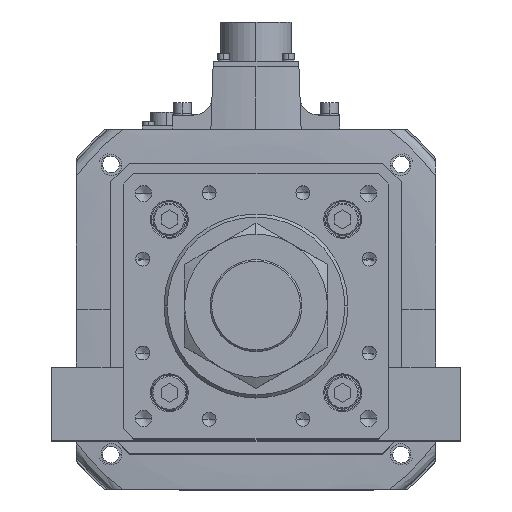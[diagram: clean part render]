
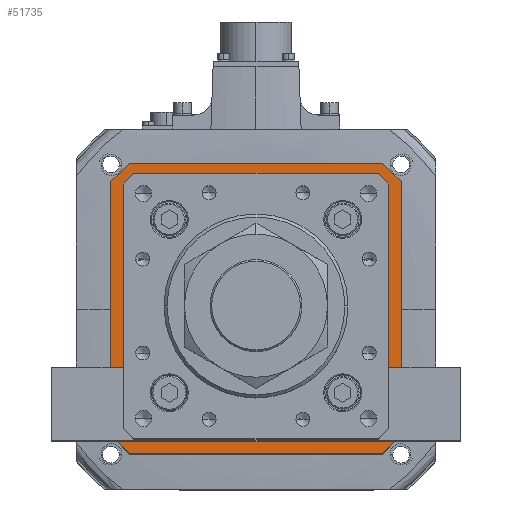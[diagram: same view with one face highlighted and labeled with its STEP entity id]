
A CAD part, top view. The second image highlights one B-rep face of the part: STEP entity #51735.
In plain terms, the highlighted planar face has unit normal (0, 0, 1) as drawn and (0, 0, -1) by its records, which use the part's own axes.
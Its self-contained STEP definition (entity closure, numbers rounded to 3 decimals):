
#1413 = ORIENTED_EDGE ( 'NONE', *, *, #3978, .T. ) ;
#2510 = LINE ( 'NONE', #45470, #39836 ) ;
#3048 = CARTESIAN_POINT ( 'NONE',  ( -62., 71., 60. ) ) ;
#3396 = CARTESIAN_POINT ( 'NONE',  ( 63., 59., 60. ) ) ;
#3423 = ORIENTED_EDGE ( 'NONE', *, *, #32538, .T. ) ;
#3978 = EDGE_CURVE ( 'NONE', #39829, #32027, #51412, .T. ) ;
#4241 = EDGE_CURVE ( 'NONE', #14136, #6837, #12597, .T. ) ;
#4397 = CARTESIAN_POINT ( 'NONE',  ( -63., 58.793, 60. ) ) ;
#5462 = EDGE_CURVE ( 'NONE', #11424, #27761, #8330, .T. ) ;
#5500 = CARTESIAN_POINT ( 'NONE',  ( -58.793, 63., 60. ) ) ;
#6202 = CARTESIAN_POINT ( 'NONE',  ( 71., -62., 60. ) ) ;
#6616 = CARTESIAN_POINT ( 'NONE',  ( -62., -71., 60. ) ) ;
#6754 = CARTESIAN_POINT ( 'NONE',  ( -58.793, -63., 60. ) ) ;
#6837 = VERTEX_POINT ( 'NONE', #45603 ) ;
#6922 = ORIENTED_EDGE ( 'NONE', *, *, #56071, .F. ) ;
#7195 = VECTOR ( 'NONE', #14227, 1000. ) ;
#7818 = VECTOR ( 'NONE', #47681, 1000. ) ;
#7963 = EDGE_CURVE ( 'NONE', #32027, #25742, #45466, .T. ) ;
#8232 = EDGE_LOOP ( 'NONE', ( #39733, #24866, #41660, #30142, #15728, #24838, #1413, #35851 ) ) ;
#8330 = LINE ( 'NONE', #48318, #10393 ) ;
#8335 = FACE_BOUND ( 'NONE', #8232, .T. ) ;
#8605 = ORIENTED_EDGE ( 'NONE', *, *, #4241, .F. ) ;
#8662 = CARTESIAN_POINT ( 'NONE',  ( 58.793, 63., 60. ) ) ;
#8802 = CARTESIAN_POINT ( 'NONE',  ( 60.896, 60.896, 60. ) ) ;
#9243 = CARTESIAN_POINT ( 'NONE',  ( -59., 63., 60. ) ) ;
#10393 = VECTOR ( 'NONE', #26678, 1000. ) ;
#10698 = DIRECTION ( 'NONE',  ( 0.707, 0.707, 0. ) ) ;
#10828 = DIRECTION ( 'NONE',  ( -0.707, -0.707, 0. ) ) ;
#11424 = VERTEX_POINT ( 'NONE', #6754 ) ;
#11534 = CARTESIAN_POINT ( 'NONE',  ( 0., 0., 60. ) ) ;
#11927 = LINE ( 'NONE', #18857, #53438 ) ;
#12533 = CARTESIAN_POINT ( 'NONE',  ( -71., 62., 60. ) ) ;
#12597 = LINE ( 'NONE', #41466, #56201 ) ;
#14136 = VERTEX_POINT ( 'NONE', #37084 ) ;
#14227 = DIRECTION ( 'NONE',  ( 0., -1., 0. ) ) ;
#14881 = VERTEX_POINT ( 'NONE', #42016 ) ;
#15160 = CARTESIAN_POINT ( 'NONE',  ( -71., 62., 60. ) ) ;
#15535 = DIRECTION ( 'NONE',  ( 1., 0., 0. ) ) ;
#15728 = ORIENTED_EDGE ( 'NONE', *, *, #23369, .T. ) ;
#15836 = EDGE_LOOP ( 'NONE', ( #8605, #25921, #6922, #3423, #46880, #36451, #17918, #55149 ) ) ;
#16114 = VECTOR ( 'NONE', #40321, 1000. ) ;
#16118 = CARTESIAN_POINT ( 'NONE',  ( 71., 71., 60. ) ) ;
#16489 = VERTEX_POINT ( 'NONE', #24404 ) ;
#16698 = LINE ( 'NONE', #6202, #43021 ) ;
#16715 = LINE ( 'NONE', #16118, #32664 ) ;
#16934 = CARTESIAN_POINT ( 'NONE',  ( -63., -59., 60. ) ) ;
#17918 = ORIENTED_EDGE ( 'NONE', *, *, #38016, .F. ) ;
#18297 = VERTEX_POINT ( 'NONE', #53233 ) ;
#18487 = CARTESIAN_POINT ( 'NONE',  ( -71., 71., 60. ) ) ;
#18857 = CARTESIAN_POINT ( 'NONE',  ( -71., 71., 60. ) ) ;
#19333 = LINE ( 'NONE', #3396, #29722 ) ;
#20204 = DIRECTION ( 'NONE',  ( 0., 1., 0. ) ) ;
#20280 = DIRECTION ( 'NONE',  ( 0., 0., 1. ) ) ;
#20424 = CARTESIAN_POINT ( 'NONE',  ( 71., 62., 60. ) ) ;
#22144 = DIRECTION ( 'NONE',  ( 0.707, 0.707, 0. ) ) ;
#22710 = VECTOR ( 'NONE', #48084, 1000. ) ;
#23112 = EDGE_CURVE ( 'NONE', #40802, #14881, #54876, .T. ) ;
#23369 = EDGE_CURVE ( 'NONE', #27761, #18297, #53425, .T. ) ;
#23437 = VECTOR ( 'NONE', #10698, 1000. ) ;
#24404 = CARTESIAN_POINT ( 'NONE',  ( -71., -62., 60. ) ) ;
#24838 = ORIENTED_EDGE ( 'NONE', *, *, #45207, .T. ) ;
#24866 = ORIENTED_EDGE ( 'NONE', *, *, #23112, .T. ) ;
#25742 = VERTEX_POINT ( 'NONE', #5500 ) ;
#25921 = ORIENTED_EDGE ( 'NONE', *, *, #30821, .T. ) ;
#26417 = CARTESIAN_POINT ( 'NONE',  ( 62., 71., 60. ) ) ;
#26500 = EDGE_CURVE ( 'NONE', #25742, #40802, #2510, .T. ) ;
#26678 = DIRECTION ( 'NONE',  ( 1., 0., 0. ) ) ;
#26846 = DIRECTION ( 'NONE',  ( -1., 0., 0. ) ) ;
#27761 = VERTEX_POINT ( 'NONE', #36399 ) ;
#29722 = VECTOR ( 'NONE', #43414, 1000. ) ;
#30142 = ORIENTED_EDGE ( 'NONE', *, *, #5462, .T. ) ;
#30252 = VERTEX_POINT ( 'NONE', #20424 ) ;
#30821 = EDGE_CURVE ( 'NONE', #14136, #16489, #52662, .T. ) ;
#32027 = VERTEX_POINT ( 'NONE', #8662 ) ;
#32538 = EDGE_CURVE ( 'NONE', #33268, #54185, #55904, .T. ) ;
#32572 = VECTOR ( 'NONE', #55303, 1000. ) ;
#32664 = VECTOR ( 'NONE', #20204, 1000. ) ;
#33268 = VERTEX_POINT ( 'NONE', #12533 ) ;
#33936 = FACE_OUTER_BOUND ( 'NONE', #15836, .T. ) ;
#34465 = LINE ( 'NONE', #26417, #22710 ) ;
#35851 = ORIENTED_EDGE ( 'NONE', *, *, #7963, .T. ) ;
#36346 = LINE ( 'NONE', #50031, #46721 ) ;
#36399 = CARTESIAN_POINT ( 'NONE',  ( 58.793, -63., 60. ) ) ;
#36451 = ORIENTED_EDGE ( 'NONE', *, *, #46048, .T. ) ;
#37084 = CARTESIAN_POINT ( 'NONE',  ( -62., -71., 60. ) ) ;
#38016 = EDGE_CURVE ( 'NONE', #46465, #30252, #16715, .T. ) ;
#39733 = ORIENTED_EDGE ( 'NONE', *, *, #26500, .T. ) ;
#39829 = VERTEX_POINT ( 'NONE', #52571 ) ;
#39836 = VECTOR ( 'NONE', #49916, 1000. ) ;
#40321 = DIRECTION ( 'NONE',  ( -0.707, 0.707, 0. ) ) ;
#40802 = VERTEX_POINT ( 'NONE', #4397 ) ;
#41466 = CARTESIAN_POINT ( 'NONE',  ( -71., -71., 60. ) ) ;
#41660 = ORIENTED_EDGE ( 'NONE', *, *, #48959, .T. ) ;
#42016 = CARTESIAN_POINT ( 'NONE',  ( -63., -58.793, 60. ) ) ;
#42834 = EDGE_CURVE ( 'NONE', #55328, #54185, #11927, .T. ) ;
#43021 = VECTOR ( 'NONE', #10828, 1000. ) ;
#43414 = DIRECTION ( 'NONE',  ( 0., 1., 0. ) ) ;
#43436 = EDGE_CURVE ( 'NONE', #46465, #6837, #16698, .T. ) ;
#44439 = VECTOR ( 'NONE', #22144, 1000. ) ;
#45158 = DIRECTION ( 'NONE',  ( -1., 0., 0. ) ) ;
#45207 = EDGE_CURVE ( 'NONE', #18297, #39829, #19333, .T. ) ;
#45466 = LINE ( 'NONE', #9243, #51680 ) ;
#45470 = CARTESIAN_POINT ( 'NONE',  ( -60.896, 60.896, 60. ) ) ;
#45603 = CARTESIAN_POINT ( 'NONE',  ( 62., -71., 60. ) ) ;
#46048 = EDGE_CURVE ( 'NONE', #55328, #30252, #34465, .T. ) ;
#46465 = VERTEX_POINT ( 'NONE', #51716 ) ;
#46721 = VECTOR ( 'NONE', #50798, 1000. ) ;
#46880 = ORIENTED_EDGE ( 'NONE', *, *, #42834, .F. ) ;
#47681 = DIRECTION ( 'NONE',  ( 0., -1., 0. ) ) ;
#48084 = DIRECTION ( 'NONE',  ( 0.707, -0.707, 0. ) ) ;
#48318 = CARTESIAN_POINT ( 'NONE',  ( 59., -63., 60. ) ) ;
#48959 = EDGE_CURVE ( 'NONE', #14881, #11424, #36346, .T. ) ;
#49357 = AXIS2_PLACEMENT_3D ( 'NONE', #11534, #20280, #51197 ) ;
#49916 = DIRECTION ( 'NONE',  ( -0.707, -0.707, 0. ) ) ;
#50031 = CARTESIAN_POINT ( 'NONE',  ( -60.896, -60.896, 60. ) ) ;
#50798 = DIRECTION ( 'NONE',  ( 0.707, -0.707, 0. ) ) ;
#50866 = CARTESIAN_POINT ( 'NONE',  ( 62., 71., 60. ) ) ;
#51197 = DIRECTION ( 'NONE',  ( 1., 0., 0. ) ) ;
#51412 = LINE ( 'NONE', #8802, #16114 ) ;
#51480 = LINE ( 'NONE', #18487, #7195 ) ;
#51680 = VECTOR ( 'NONE', #26846, 1000. ) ;
#51716 = CARTESIAN_POINT ( 'NONE',  ( 71., -62., 60. ) ) ;
#51735 = ADVANCED_FACE ( 'NONE', ( #8335, #33936 ), #53312, .F. ) ;
#52571 = CARTESIAN_POINT ( 'NONE',  ( 63., 58.793, 60. ) ) ;
#52662 = LINE ( 'NONE', #6616, #32572 ) ;
#52907 = CARTESIAN_POINT ( 'NONE',  ( 60.896, -60.896, 60. ) ) ;
#53233 = CARTESIAN_POINT ( 'NONE',  ( 63., -58.793, 60. ) ) ;
#53312 = PLANE ( 'NONE',  #49357 ) ;
#53425 = LINE ( 'NONE', #52907, #44439 ) ;
#53438 = VECTOR ( 'NONE', #45158, 1000. ) ;
#54185 = VERTEX_POINT ( 'NONE', #3048 ) ;
#54876 = LINE ( 'NONE', #16934, #7818 ) ;
#55149 = ORIENTED_EDGE ( 'NONE', *, *, #43436, .T. ) ;
#55303 = DIRECTION ( 'NONE',  ( -0.707, 0.707, 0. ) ) ;
#55328 = VERTEX_POINT ( 'NONE', #50866 ) ;
#55904 = LINE ( 'NONE', #15160, #23437 ) ;
#56071 = EDGE_CURVE ( 'NONE', #33268, #16489, #51480, .T. ) ;
#56201 = VECTOR ( 'NONE', #15535, 1000. ) ;
